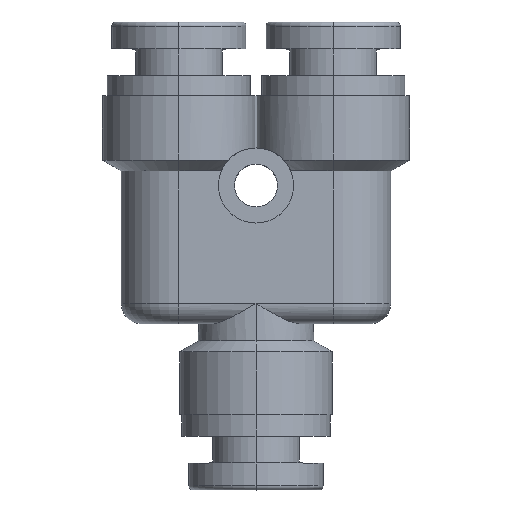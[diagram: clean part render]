
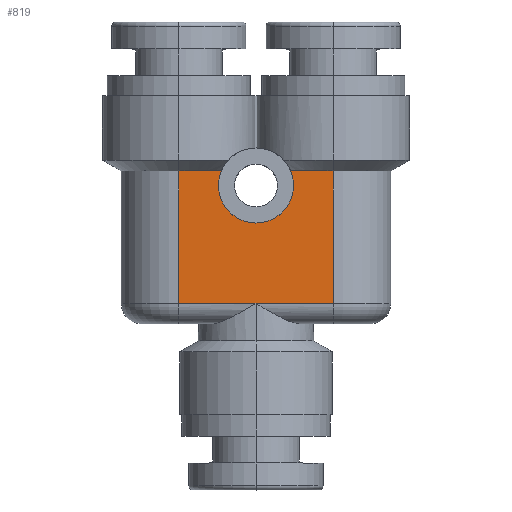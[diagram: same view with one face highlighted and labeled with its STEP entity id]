
A CAD part, top view. The second image highlights one B-rep face of the part: STEP entity #819.
In plain terms, the highlighted planar face has unit normal (0, 0, 1).
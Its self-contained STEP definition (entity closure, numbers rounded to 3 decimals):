
#40 = VERTEX_POINT ( 'NONE', #1599 ) ;
#47 = CARTESIAN_POINT ( 'NONE',  ( -5.75, -10.3, 4.3 ) ) ;
#127 = AXIS2_PLACEMENT_3D ( 'NONE', #1077, #1858, #699 ) ;
#146 = CARTESIAN_POINT ( 'NONE',  ( -5.75, 1.09, 4.3 ) ) ;
#178 = CARTESIAN_POINT ( 'NONE',  ( 0., 0., 4.3 ) ) ;
#213 = VECTOR ( 'NONE', #2230, 1000. ) ;
#225 = CARTESIAN_POINT ( 'NONE',  ( 0., 1.09, 4.3 ) ) ;
#262 = CARTESIAN_POINT ( 'NONE',  ( 0., 0., 4.3 ) ) ;
#273 = EDGE_CURVE ( 'NONE', #1812, #1887, #2008, .T. ) ;
#304 = CARTESIAN_POINT ( 'NONE',  ( -2.8, 0., 4.3 ) ) ;
#315 = CARTESIAN_POINT ( 'NONE',  ( 2.8, 0., 4.3 ) ) ;
#326 = DIRECTION ( 'NONE',  ( 1., 0., 0. ) ) ;
#358 = CARTESIAN_POINT ( 'NONE',  ( 5.75, -8.8, 4.3 ) ) ;
#434 = ORIENTED_EDGE ( 'NONE', *, *, #2250, .F. ) ;
#465 = VERTEX_POINT ( 'NONE', #146 ) ;
#493 = ORIENTED_EDGE ( 'NONE', *, *, #1405, .T. ) ;
#546 = DIRECTION ( 'NONE',  ( 0., 0., 1. ) ) ;
#563 = VERTEX_POINT ( 'NONE', #738 ) ;
#580 = VERTEX_POINT ( 'NONE', #1247 ) ;
#592 = EDGE_LOOP ( 'NONE', ( #1147, #1466, #1714, #434, #2457, #2040, #493, #1123, #1669 ) ) ;
#627 = LINE ( 'NONE', #1623, #975 ) ;
#665 = EDGE_CURVE ( 'NONE', #1887, #563, #627, .T. ) ;
#688 = EDGE_CURVE ( 'NONE', #465, #580, #2034, .T. ) ;
#699 = DIRECTION ( 'NONE',  ( 1., 0., 0. ) ) ;
#738 = CARTESIAN_POINT ( 'NONE',  ( 2.579, 1.09, 4.3 ) ) ;
#765 = DIRECTION ( 'NONE',  ( 1., 0., 0. ) ) ;
#786 = VECTOR ( 'NONE', #1957, 1000. ) ;
#819 = ADVANCED_FACE ( 'NONE', ( #2071 ), #867, .T. ) ;
#832 = AXIS2_PLACEMENT_3D ( 'NONE', #1385, #546, #765 ) ;
#833 = VERTEX_POINT ( 'NONE', #2307 ) ;
#841 = CARTESIAN_POINT ( 'NONE',  ( 5.75, -8.8, 4.3 ) ) ;
#855 = DIRECTION ( 'NONE',  ( 0., 1., 0. ) ) ;
#867 = PLANE ( 'NONE',  #127 ) ;
#879 = EDGE_CURVE ( 'NONE', #40, #465, #2505, .T. ) ;
#966 = LINE ( 'NONE', #841, #1555 ) ;
#975 = VECTOR ( 'NONE', #2239, 1000. ) ;
#978 = VERTEX_POINT ( 'NONE', #315 ) ;
#1031 = DIRECTION ( 'NONE',  ( 1., 0., 0. ) ) ;
#1072 = DIRECTION ( 'NONE',  ( 1., 0., 0. ) ) ;
#1077 = CARTESIAN_POINT ( 'NONE',  ( 0., -10.3, 4.3 ) ) ;
#1123 = ORIENTED_EDGE ( 'NONE', *, *, #1955, .T. ) ;
#1147 = ORIENTED_EDGE ( 'NONE', *, *, #665, .T. ) ;
#1227 = VECTOR ( 'NONE', #855, 1000. ) ;
#1247 = CARTESIAN_POINT ( 'NONE',  ( -2.579, 1.09, 4.3 ) ) ;
#1255 = VERTEX_POINT ( 'NONE', #304 ) ;
#1383 = CIRCLE ( 'NONE', #1515, 2.8 ) ;
#1385 = CARTESIAN_POINT ( 'NONE',  ( 0., 0., 4.3 ) ) ;
#1405 = EDGE_CURVE ( 'NONE', #40, #833, #1529, .T. ) ;
#1408 = CARTESIAN_POINT ( 'NONE',  ( 5.75, -10.3, 4.3 ) ) ;
#1466 = ORIENTED_EDGE ( 'NONE', *, *, #2294, .F. ) ;
#1515 = AXIS2_PLACEMENT_3D ( 'NONE', #262, #2249, #1072 ) ;
#1529 = LINE ( 'NONE', #358, #786 ) ;
#1555 = VECTOR ( 'NONE', #1859, 1000. ) ;
#1599 = CARTESIAN_POINT ( 'NONE',  ( -5.75, -8.8, 4.3 ) ) ;
#1623 = CARTESIAN_POINT ( 'NONE',  ( 0., 1.09, 4.3 ) ) ;
#1669 = ORIENTED_EDGE ( 'NONE', *, *, #273, .T. ) ;
#1714 = ORIENTED_EDGE ( 'NONE', *, *, #1736, .F. ) ;
#1736 = EDGE_CURVE ( 'NONE', #1255, #978, #1383, .T. ) ;
#1812 = VERTEX_POINT ( 'NONE', #2263 ) ;
#1858 = DIRECTION ( 'NONE',  ( 0., 0., 1. ) ) ;
#1859 = DIRECTION ( 'NONE',  ( 1., 0., 0. ) ) ;
#1887 = VERTEX_POINT ( 'NONE', #1962 ) ;
#1955 = EDGE_CURVE ( 'NONE', #833, #1812, #966, .T. ) ;
#1957 = DIRECTION ( 'NONE',  ( 1., 0., 0. ) ) ;
#1962 = CARTESIAN_POINT ( 'NONE',  ( 5.75, 1.09, 4.3 ) ) ;
#2008 = LINE ( 'NONE', #1408, #213 ) ;
#2034 = LINE ( 'NONE', #225, #2528 ) ;
#2040 = ORIENTED_EDGE ( 'NONE', *, *, #879, .F. ) ;
#2071 = FACE_OUTER_BOUND ( 'NONE', #592, .T. ) ;
#2141 = DIRECTION ( 'NONE',  ( 0., 0., 1. ) ) ;
#2230 = DIRECTION ( 'NONE',  ( 0., 1., 0. ) ) ;
#2239 = DIRECTION ( 'NONE',  ( -1., 0., 0. ) ) ;
#2249 = DIRECTION ( 'NONE',  ( 0., 0., 1. ) ) ;
#2250 = EDGE_CURVE ( 'NONE', #580, #1255, #2394, .T. ) ;
#2263 = CARTESIAN_POINT ( 'NONE',  ( 5.75, -8.8, 4.3 ) ) ;
#2294 = EDGE_CURVE ( 'NONE', #978, #563, #2518, .T. ) ;
#2307 = CARTESIAN_POINT ( 'NONE',  ( 0., -8.8, 4.3 ) ) ;
#2317 = AXIS2_PLACEMENT_3D ( 'NONE', #178, #2141, #326 ) ;
#2394 = CIRCLE ( 'NONE', #2317, 2.8 ) ;
#2457 = ORIENTED_EDGE ( 'NONE', *, *, #688, .F. ) ;
#2505 = LINE ( 'NONE', #47, #1227 ) ;
#2518 = CIRCLE ( 'NONE', #832, 2.8 ) ;
#2528 = VECTOR ( 'NONE', #1031, 1000. ) ;
